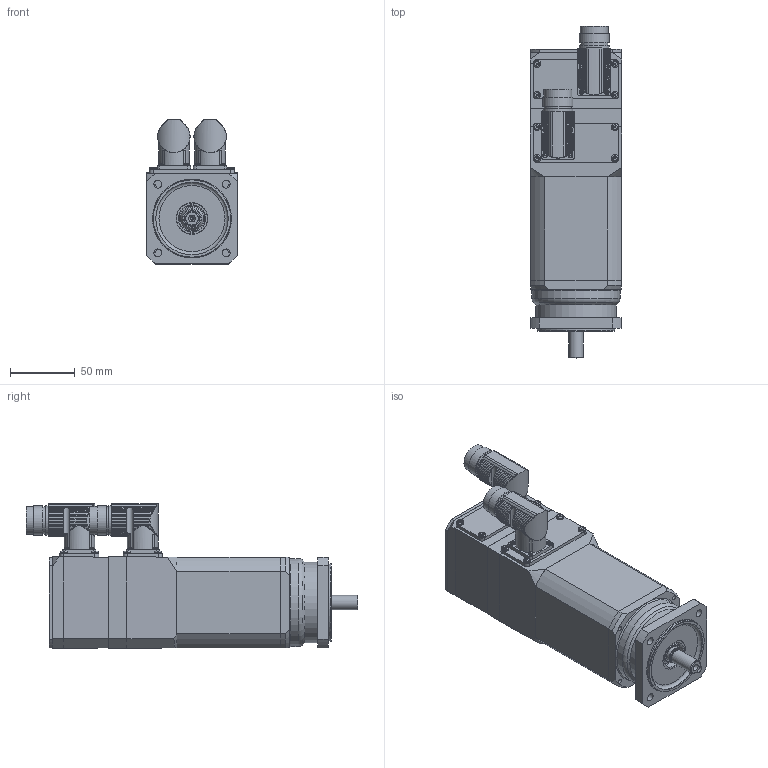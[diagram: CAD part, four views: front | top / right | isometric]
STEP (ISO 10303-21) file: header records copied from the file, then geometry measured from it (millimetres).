
FILE_DESCRIPTION(/* description */ (''),/* implementation_level */ '2;1');
FILE_NAME(/* name */ 'MR 7424-Ux-Nxxx-G01-A0D-MS',/* time_stamp */ '2007-07-13T09:50:00+01:00',/* author */ (''),/* organization */ ('ESR Pollmeier GmbH'),/* preprocessor_version */ 'ST-DEVELOPER v8',/* originating_system */ 'UNIGRAPHICS SOLUTIONS - UNIGRAPHICS 18.0',/* authorisation */ '');
FILE_SCHEMA (('AUTOMOTIVE_DESIGN { 1 2 10303 214 0 1 1 1 }'));
Length unit declared in the file: millimetre
Products named in the file (15): 064204X_0; Gehaeuse_SY2_80_0; iso2009-m3x8_A; 064214_2; 064245Z_0; Rotor_SY2_0; din920-m2.5x6_A; iso1580-m3x10_A; 014257_0; 014250_0; 112049Z_1; DIN3760_org_A12x24x7_0; 112050Z_1; 064204Z_0; MR7424-Ux-Nxxx-G01-A0D-MS_neu_0
Assembly tree (32 placements, depth 3):
  MR7424-Ux-Nxxx-G01-A0D-MS_neu_0
    112050Z_1
    DIN3760_org_A12x24x7_0
    112049Z_1
    064204Z_0  x2
      064204X_0
    014250_0
    014257_0
    iso1580-m3x10_A  x8
    din920-m2.5x6_A  x8
    Rotor_SY2_0
    064245Z_0
    064214_2
    iso2009-m3x8_A  x4
    Gehaeuse_SY2_80_0
Bounding box: 70.75 x 256.4 x 111.74 mm (x, y, z)
Volume: 435580.5 mm3; surface area: 210385.3 mm2
Topology: 33 solids, 33 shells, 1340 faces, 3544 edges, 2296 vertices
Faces by surface type: cylinder 636, plane 414, cone 138, bspline 66, torus 62, sphere 24
Full cylindrical faces by diameter (mm): 1 x16, 2 x4, 2.135 x8, 2.387 x8, 2.4 x6, 2.459 x20, 2.5 x9, 2.7 x8, 3 x12, 3.3 x3, 3.432 x7, 3.5 x29, 6 x12, 6.5 x3, 8 x4, 10.6 x1, 11 x2, 12 x2, 12.3 x1, 14 x1, 15.02 x1, 16 x1, 18 x4, 20 x6, 21 x3, 21.5 x2, 22 x1, 23 x5, 24 x2, 26 x1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
Entity records: 35452 total; most frequent: CARTESIAN_POINT 9380, DIRECTION 5204, ORIENTED_EDGE 5110, EDGE_CURVE 2555, AXIS2_PLACEMENT_3D 2175, VERTEX_POINT 1805, EDGE_LOOP 1543, ADVANCED_FACE 1090
